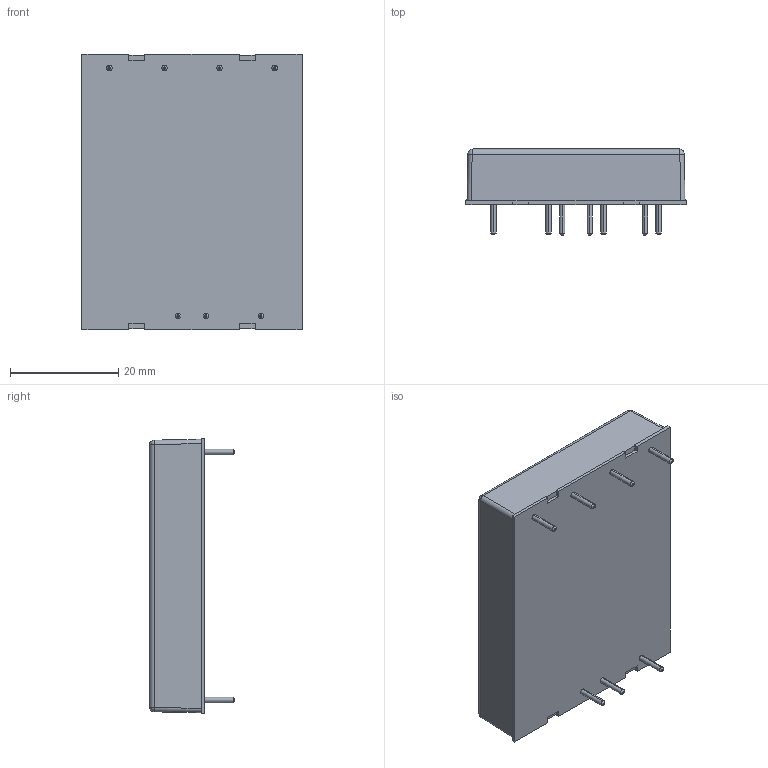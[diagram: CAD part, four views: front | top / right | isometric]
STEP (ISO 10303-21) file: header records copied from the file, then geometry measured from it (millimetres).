
FILE_DESCRIPTION (( 'STEP AP214' ), '1' );
FILE_NAME ('TEN 30WI.STEP', '2018-10-11T02:41:48', ( 'user' ), ( '' ), 'SwSTEP 2.0', 'SolidWorks 2016', '' );
FILE_SCHEMA (( 'AUTOMOTIVE_DESIGN' ));
Length unit declared in the file: millimetre
Products named in the file (1): TEN 30WI
Bounding box: 40.6 x 15.8 x 50.8 mm (x, y, z)
Volume: 20522.3 mm3; surface area: 5970.1 mm2
Topology: 1 solids, 1 shells, 81 faces, 186 edges, 110 vertices
Faces by surface type: plane 41, cylinder 22, cone 14, bspline 4
Entity records: 2667 total; most frequent: CARTESIAN_POINT 574, DIRECTION 372, ORIENTED_EDGE 364, EDGE_CURVE 182, VECTOR 124, AXIS2_PLACEMENT_3D 124, LINE 124, VERTEX_POINT 110
